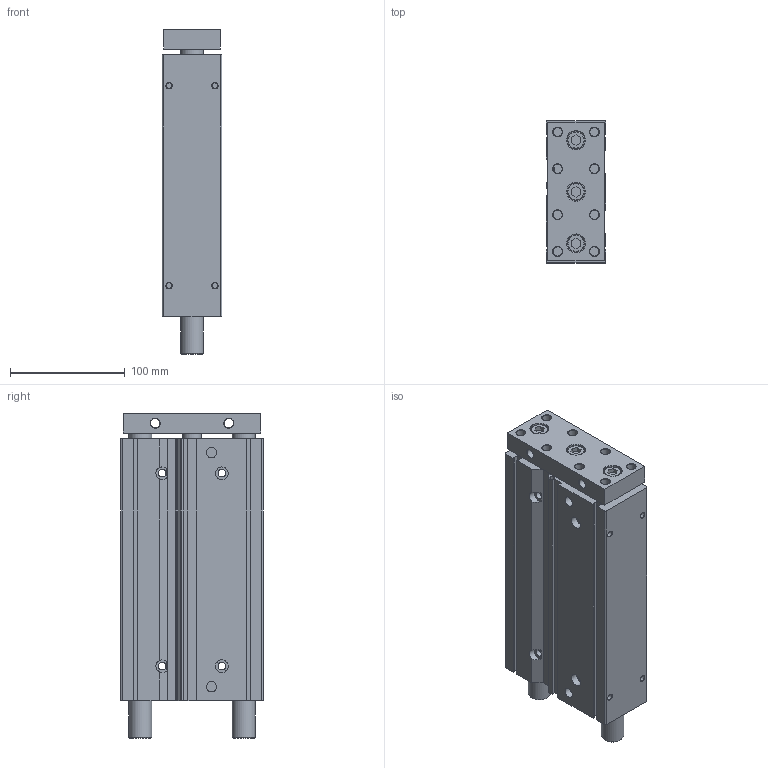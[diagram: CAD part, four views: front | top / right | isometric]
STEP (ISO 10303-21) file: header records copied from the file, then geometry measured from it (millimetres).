
FILE_DESCRIPTION((''),'2;1');
FILE_NAME('I:\3D電子目錄\氣缸\TB(U)\TB(U)40\TB(U)40\TB(U)40x175.stp','2007-08-06T09:17:34',('Administrator'),(''),'Autodesk Inventor 2008','Autodesk Inventor 2008','');
FILE_SCHEMA(('AUTOMOTIVE_DESIGN { 1 0 10303 214 1 1 1 1 }'));
Length unit declared in the file: millimetre
Products named in the file (1): TB(U)40X175
Bounding box: 52 x 124 x 283 mm (x, y, z)
Volume: 1477650.4 mm3; surface area: 150211.5 mm2
Topology: 1 solids, 1 shells, 218 faces, 500 edges, 320 vertices
Faces by surface type: plane 104, cylinder 52, cone 37, bspline 22, torus 3
Full cylindrical faces by diameter (mm): 5 x4, 6 x4, 6.5 x4, 8 x10, 9 x2, 11 x6, 15 x3, 16 x4, 20 x4, 28 x2, 35 x1
Entity records: 5822 total; most frequent: CARTESIAN_POINT 1073, DIRECTION 962, ORIENTED_EDGE 824, EDGE_CURVE 412, EDGE_LOOP 374, AXIS2_PLACEMENT_3D 353, VERTEX_POINT 320, VECTOR 256
